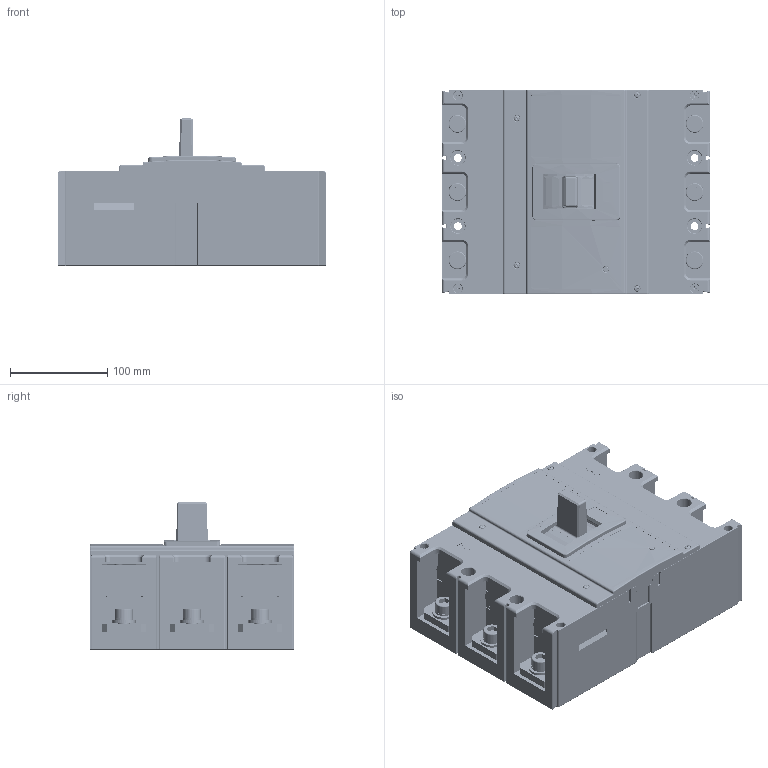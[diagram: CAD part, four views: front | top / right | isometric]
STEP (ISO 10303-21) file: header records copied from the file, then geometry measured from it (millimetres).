
FILE_DESCRIPTION(/* description */ (''),/* implementation_level */ '2;1');
FILE_NAME(/* name */ 'CMM-800-3P-Drawing-3D.stp',/* time_stamp */ '2025-07-08T09:45:19-03:00',/* author */ ('guilh'),/* organization */ (''),/* preprocessor_version */ 'ST-DEVELOPER v20',/* originating_system */ 'Autodesk Inventor 2024',/* authorisation */ '');
FILE_SCHEMA (('AUTOMOTIVE_DESIGN { 1 0 10303 214 3 1 1 }'));
Products named in the file (87): YCM8-800-3P-Drawing-3D; YCM8-800-3P-Drawing-3D.sldasm-Part-1; YCM8-800-3P-Drawing-3D.sldasm-Part-2; YCM8-800-3P-Drawing-3D.sldasm-Part-3; YCM8-800-3P-Drawing-3D.sldasm-Part-4; YCM8-800-3P-Drawing-3D.sldasm-Part-5; YCM8-800-3P-Drawing-3D.sldasm-Part-6; YCM8-800-3P-Drawing-3D.sldasm-Part-7; YCM8-800-3P-Drawing-3D.sldasm-Part-8; YCM8-800-3P-Drawing-3D.sldasm-Part-9; YCM8-800-3P-Drawing-3D.sldasm-Part-10; YCM8-800-3P-Drawing-3D.sldasm-Part-11; YCM8-800-3P-Drawing-3D.sldasm-Part-12; YCM8-800-3P-Drawing-3D.sldasm-Part-13; YCM8-800-3P-Drawing-3D.sldasm-Part-14; YCM8-800-3P-Drawing-3D.sldasm-Part-15; YCM8-800-3P-Drawing-3D.sldasm-Part-16; YCM8-800-3P-Drawing-3D.sldasm-Part-17; YCM8-800-3P-Drawing-3D.sldasm-Part-18; YCM8-800-3P-Drawing-3D.sldasm-Part-19; YCM8-800-3P-Drawing-3D.sldasm-Part-20; YCM8-800-3P-Drawing-3D.sldasm-Part-21; YCM8-800-3P-Drawing-3D.sldasm-Part-22; YCM8-800-3P-Drawing-3D.sldasm-Part-23; YCM8-800-3P-Drawing-3D.sldasm-Part-24; YCM8-800-3P-Drawing-3D.sldasm-Part-25; YCM8-800-3P-Drawing-3D.sldasm-Part-26; YCM8-800-3P-Drawing-3D.sldasm-Part-27; YCM8-800-3P-Drawing-3D.sldasm-Part-28; YCM8-800-3P-Drawing-3D.sldasm-Part-29; YCM8-800-3P-Drawing-3D.sldasm-Part-30; YCM8-800-3P-Drawing-3D.sldasm-Part-31; YCM8-800-3P-Drawing-3D.sldasm-Part-32; YCM8-800-3P-Drawing-3D.sldasm-Part-33; YCM8-800-3P-Drawing-3D.sldasm-Part-34; YCM8-800-3P-Drawing-3D.sldasm-Part-35; YCM8-800-3P-Drawing-3D.sldasm-Part-36; YCM8-800-3P-Drawing-3D.sldasm-Part-37; YCM8-800-3P-Drawing-3D.sldasm-Part-38; YCM8-800-3P-Drawing-3D.sldasm-Part-39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
Assembly tree (86 placements, depth 2):
  YCM8-800-3P-Drawing-3D
    YCM8-800-3P-Drawing-3D.sldasm-Part-1
    YCM8-800-3P-Drawing-3D.sldasm-Part-2
    YCM8-800-3P-Drawing-3D.sldasm-Part-3
    YCM8-800-3P-Drawing-3D.sldasm-Part-4
    YCM8-800-3P-Drawing-3D.sldasm-Part-5
    YCM8-800-3P-Drawing-3D.sldasm-Part-6
    YCM8-800-3P-Drawing-3D.sldasm-Part-7
    YCM8-800-3P-Drawing-3D.sldasm-Part-8
    YCM8-800-3P-Drawing-3D.sldasm-Part-9
    YCM8-800-3P-Drawing-3D.sldasm-Part-10
    YCM8-800-3P-Drawing-3D.sldasm-Part-11
    YCM8-800-3P-Drawing-3D.sldasm-Part-12
    YCM8-800-3P-Drawing-3D.sldasm-Part-13
    YCM8-800-3P-Drawing-3D.sldasm-Part-14
    YCM8-800-3P-Drawing-3D.sldasm-Part-15
    YCM8-800-3P-Drawing-3D.sldasm-Part-16
    YCM8-800-3P-Drawing-3D.sldasm-Part-17
    YCM8-800-3P-Drawing-3D.sldasm-Part-18
    YCM8-800-3P-Drawing-3D.sldasm-Part-19
    YCM8-800-3P-Drawing-3D.sldasm-Part-20
    YCM8-800-3P-Drawing-3D.sldasm-Part-21
    YCM8-800-3P-Drawing-3D.sldasm-Part-22
    YCM8-800-3P-Drawing-3D.sldasm-Part-23
    YCM8-800-3P-Drawing-3D.sldasm-Part-24
    YCM8-800-3P-Drawing-3D.sldasm-Part-25
    YCM8-800-3P-Drawing-3D.sldasm-Part-26
    YCM8-800-3P-Drawing-3D.sldasm-Part-27
    YCM8-800-3P-Drawing-3D.sldasm-Part-28
    YCM8-800-3P-Drawing-3D.sldasm-Part-29
    YCM8-800-3P-Drawing-3D.sldasm-Part-30
    YCM8-800-3P-Drawing-3D.sldasm-Part-31
    YCM8-800-3P-Drawing-3D.sldasm-Part-32
    YCM8-800-3P-Drawing-3D.sldasm-Part-33
    YCM8-800-3P-Drawing-3D.sldasm-Part-34
    YCM8-800-3P-Drawing-3D.sldasm-Part-35
    YCM8-800-3P-Drawing-3D.sldasm-Part-36
    YCM8-800-3P-Drawing-3D.sldasm-Part-37
    YCM8-800-3P-Drawing-3D.sldasm-Part-38
    YCM8-800-3P-Drawing-3D.sldasm-Part-39
    YCM8-800-3P-Drawing-3D.sldasm-Part-40
    YCM8-800-3P-Drawing-3D.sldasm-Part-41
    YCM8-800-3P-Drawing-3D.sldasm-Part-42
    YCM8-800-3P-Drawing-3D.sldasm-Part-43
    YCM8-800-3P-Drawing-3D.sldasm-Part-44
    YCM8-800-3P-Drawing-3D.sldasm-Part-45
    YCM8-800-3P-Drawing-3D.sldasm-Part-46
    YCM8-800-3P-Drawing-3D.sldasm-Part-47
    YCM8-800-3P-Drawing-3D.sldasm-Part-48
    YCM8-800-3P-Drawing-3D.sldasm-Part-49
    YCM8-800-3P-Drawing-3D.sldasm-Part-50
    YCM8-800-3P-Drawing-3D.sldasm-Part-51
    YCM8-800-3P-Drawing-3D.sldasm-Part-52
    YCM8-800-3P-Drawing-3D.sldasm-Part-53
    YCM8-800-3P-Drawing-3D.sldasm-Part-54
    YCM8-800-3P-Drawing-3D.sldasm-Part-55
    YCM8-800-3P-Drawing-3D.sldasm-Part-56
    YCM8-800-3P-Drawing-3D.sldasm-Part-57
    YCM8-800-3P-Drawing-3D.sldasm-Part-58
    YCM8-800-3P-Drawing-3D.sldasm-Part-59
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Bounding box: 275.5 x 210 x 151.31 mm (x, y, z)
Volume: 1863806 mm3; surface area: 914199.1 mm2
Topology: 86 solids, 87 shells, 5959 faces, 16286 edges, 10644 vertices
Faces by surface type: plane 3384, cylinder 1976, bspline 274, torus 184, cone 111, sphere 30
Full cylindrical faces by diameter (mm): 2.659 x4, 2.754 x80, 2.9 x1, 3 x4, 3.15 x4, 3.354 x80, 3.4 x3, 3.5 x9, 4 x4, 4.2 x271, 4.48 x5, 4.6 x8, 5 x225, 5.1 x3, 5.3 x12, 5.5 x27, 5.8 x2, 5.85 x8, 6 x2, 6.2 x1, 6.3 x1, 6.5 x4, 6.6 x1, 6.8 x3, 7 x55, 7.05 x1, 7.5 x40, 8 x4, 8.4 x6, 8.5 x5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
Entity records: 296598 total; most frequent: CARTESIAN_POINT 143069, ORIENTED_EDGE 32486, DIRECTION 29254, EDGE_CURVE 16243, VERTEX_POINT 10644, LINE 10584, VECTOR 10584, AXIS2_PLACEMENT_3D 9335
